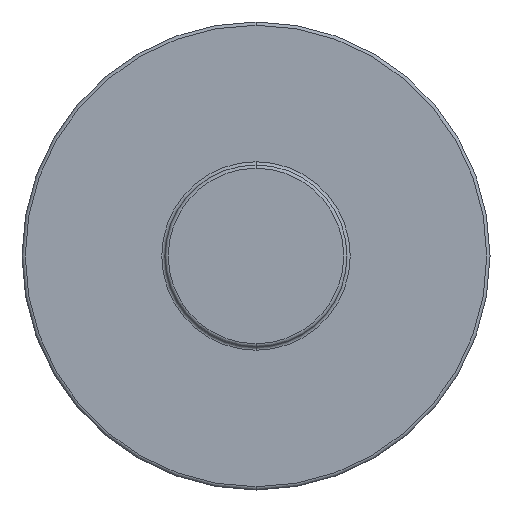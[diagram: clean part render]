
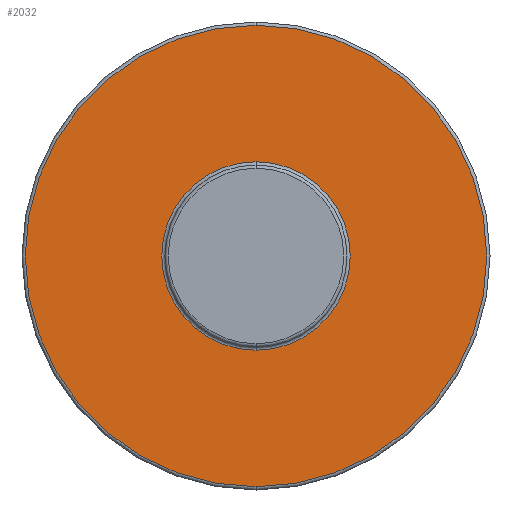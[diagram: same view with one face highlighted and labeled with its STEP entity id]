
A CAD part, front view. The second image highlights one B-rep face of the part: STEP entity #2032.
In plain terms, the highlighted planar face has unit normal (0, -1, 0) as drawn and (-1, 0, 0) by its records, which use the part's own axes.
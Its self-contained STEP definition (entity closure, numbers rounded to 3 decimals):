
#44 = EDGE_LOOP ( 'NONE', ( #909, #956 ) ) ;
#57 = DIRECTION ( 'NONE',  ( -1., 0., 0. ) ) ;
#214 = VERTEX_POINT ( 'NONE', #1405 ) ;
#262 = DIRECTION ( 'NONE',  ( 0., 0., -1. ) ) ;
#288 = EDGE_LOOP ( 'NONE', ( #3943, #2882 ) ) ;
#468 = CARTESIAN_POINT ( 'NONE',  ( 0., 0., 0. ) ) ;
#626 = AXIS2_PLACEMENT_3D ( 'NONE', #4188, #4135, #2175 ) ;
#821 = VERTEX_POINT ( 'NONE', #1700 ) ;
#909 = ORIENTED_EDGE ( 'NONE', *, *, #2144, .T. ) ;
#937 = PLANE ( 'NONE',  #3706 ) ;
#956 = ORIENTED_EDGE ( 'NONE', *, *, #2238, .T. ) ;
#1212 = CARTESIAN_POINT ( 'NONE',  ( 0., 0., 0. ) ) ;
#1241 = FACE_BOUND ( 'NONE', #44, .T. ) ;
#1405 = CARTESIAN_POINT ( 'NONE',  ( 0., 0., 35.5 ) ) ;
#1656 = VERTEX_POINT ( 'NONE', #3547 ) ;
#1679 = AXIS2_PLACEMENT_3D ( 'NONE', #468, #2888, #2562 ) ;
#1700 = CARTESIAN_POINT ( 'NONE',  ( 0., 0., 14.5 ) ) ;
#1822 = CIRCLE ( 'NONE', #3284, 35.5 ) ;
#1993 = AXIS2_PLACEMENT_3D ( 'NONE', #2613, #2201, #262 ) ;
#2005 = FACE_OUTER_BOUND ( 'NONE', #288, .T. ) ;
#2032 = ADVANCED_FACE ( 'NONE', ( #2005, #1241 ), #937, .F. ) ;
#2144 = EDGE_CURVE ( 'NONE', #3730, #821, #2565, .T. ) ;
#2175 = DIRECTION ( 'NONE',  ( 0., 0., -1. ) ) ;
#2201 = DIRECTION ( 'NONE',  ( -1., 0., 0. ) ) ;
#2218 = EDGE_CURVE ( 'NONE', #214, #1656, #3544, .T. ) ;
#2238 = EDGE_CURVE ( 'NONE', #821, #3730, #3462, .T. ) ;
#2562 = DIRECTION ( 'NONE',  ( 0., 0., -1. ) ) ;
#2565 = CIRCLE ( 'NONE', #1679, 14.5 ) ;
#2613 = CARTESIAN_POINT ( 'NONE',  ( 0., 0., 0. ) ) ;
#2866 = DIRECTION ( 'NONE',  ( 1., 0., 0. ) ) ;
#2882 = ORIENTED_EDGE ( 'NONE', *, *, #2218, .T. ) ;
#2888 = DIRECTION ( 'NONE',  ( 1., 0., 0. ) ) ;
#3067 = DIRECTION ( 'NONE',  ( 0., 0., -1. ) ) ;
#3284 = AXIS2_PLACEMENT_3D ( 'NONE', #1212, #57, #3067 ) ;
#3462 = CIRCLE ( 'NONE', #626, 14.5 ) ;
#3544 = CIRCLE ( 'NONE', #1993, 35.5 ) ;
#3547 = CARTESIAN_POINT ( 'NONE',  ( 0., 0., -35.5 ) ) ;
#3706 = AXIS2_PLACEMENT_3D ( 'NONE', #4380, #2866, #4039 ) ;
#3730 = VERTEX_POINT ( 'NONE', #3750 ) ;
#3750 = CARTESIAN_POINT ( 'NONE',  ( 0., 0., -14.5 ) ) ;
#3943 = ORIENTED_EDGE ( 'NONE', *, *, #4162, .T. ) ;
#4039 = DIRECTION ( 'NONE',  ( 0., 0., -1. ) ) ;
#4135 = DIRECTION ( 'NONE',  ( 1., 0., 0. ) ) ;
#4162 = EDGE_CURVE ( 'NONE', #1656, #214, #1822, .T. ) ;
#4188 = CARTESIAN_POINT ( 'NONE',  ( 0., 0., 0. ) ) ;
#4380 = CARTESIAN_POINT ( 'NONE',  ( 0., 0., 0. ) ) ;
